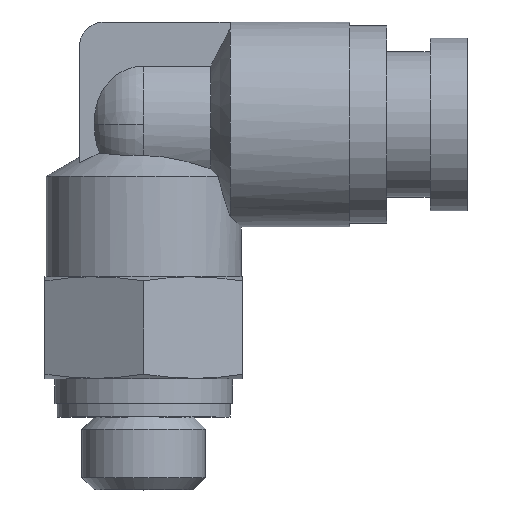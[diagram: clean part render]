
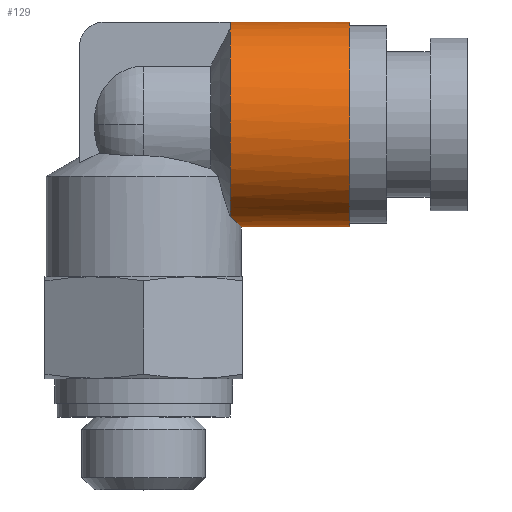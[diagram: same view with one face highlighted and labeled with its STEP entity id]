
A CAD part, top view. The second image highlights one B-rep face of the part: STEP entity #129.
In plain terms, the highlighted cylindrical face has radius 4.15 mm (diameter 8.3 mm), a partial arc.
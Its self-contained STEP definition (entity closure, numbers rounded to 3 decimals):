
#129 = ADVANCED_FACE( '', ( #249 ), #250, .T. );
#249 = FACE_OUTER_BOUND( '', #372, .T. );
#250 = CYLINDRICAL_SURFACE( '', #373, 4.15 );
#372 = EDGE_LOOP( '', ( #792, #793, #794, #795, #796, #797 ) );
#373 = AXIS2_PLACEMENT_3D( '', #798, #799, #800 );
#792 = ORIENTED_EDGE( '', *, *, #827, .T. );
#793 = ORIENTED_EDGE( '', *, *, #921, .F. );
#794 = ORIENTED_EDGE( '', *, *, #934, .F. );
#795 = ORIENTED_EDGE( '', *, *, #938, .T. );
#796 = ORIENTED_EDGE( '', *, *, #829, .T. );
#797 = ORIENTED_EDGE( '', *, *, #956, .T. );
#798 = CARTESIAN_POINT( '', ( 5.92, 11.85, 0. ) );
#799 = DIRECTION( '', ( 1., 0., 0. ) );
#800 = DIRECTION( '', ( 0., 1., 0. ) );
#827 = EDGE_CURVE( '', #965, #966, #967, .T. );
#829 = EDGE_CURVE( '', #970, #968, #971, .T. );
#921 = EDGE_CURVE( '', #1133, #966, #1134, .T. );
#934 = EDGE_CURVE( '', #1152, #1133, #1154, .T. );
#938 = EDGE_CURVE( '', #1152, #970, #1159, .T. );
#956 = EDGE_CURVE( '', #968, #965, #1177, .T. );
#965 = VERTEX_POINT( '', #1213 );
#966 = VERTEX_POINT( '', #1214 );
#967 = LINE( '', #1215, #1216 );
#968 = VERTEX_POINT( '', #1217 );
#970 = VERTEX_POINT( '', #1219 );
#971 = LINE( '', #1220, #1221 );
#1133 = VERTEX_POINT( '', #1694 );
#1134 = CIRCLE( '', #1695, 4.15 );
#1152 = VERTEX_POINT( '', #1766 );
#1154 = CIRCLE( '', #1775, 4.15 );
#1159 = B_SPLINE_CURVE_WITH_KNOTS( '', 3, ( #1796, #1797, #1798, #1799, #1800, #1801, #1802, #1803, #1804, #1805, #1806, #1807, #1808, #1809 ), .UNSPECIFIED., .F., .F., ( 4, 2, 2, 2, 2, 2, 4 ), ( 18.822, 19.119, 19.926, 20.734, 21.542, 22.35, 22.647 ), .UNSPECIFIED. );
#1177 = CIRCLE( '', #1827, 4.15 );
#1213 = CARTESIAN_POINT( '', ( 8.34, 16., 0. ) );
#1214 = CARTESIAN_POINT( '', ( 3.5, 16., 0. ) );
#1215 = CARTESIAN_POINT( '', ( 5.92, 16., 0. ) );
#1216 = VECTOR( '', #1836, 1. );
#1217 = CARTESIAN_POINT( '', ( 8.34, 7.7, 0. ) );
#1219 = CARTESIAN_POINT( '', ( 3.95, 7.7, 0. ) );
#1220 = CARTESIAN_POINT( '', ( 5.92, 7.7, 0. ) );
#1221 = VECTOR( '', #1840, 1. );
#1694 = CARTESIAN_POINT( '', ( 3.5, 15.719, 1.5 ) );
#1695 = AXIS2_PLACEMENT_3D( '', #1957, #1958, #1959 );
#1766 = CARTESIAN_POINT( '', ( 3.5, 8.126, 1.831 ) );
#1775 = AXIS2_PLACEMENT_3D( '', #1971, #1972, #1973 );
#1796 = CARTESIAN_POINT( '', ( 3.5, 8.126, 1.831 ) );
#1797 = CARTESIAN_POINT( '', ( 3.544, 8.084, 1.747 ) );
#1798 = CARTESIAN_POINT( '', ( 3.586, 8.045, 1.66 ) );
#1799 = CARTESIAN_POINT( '', ( 3.729, 7.91, 1.329 ) );
#1800 = CARTESIAN_POINT( '', ( 3.811, 7.832, 1.072 ) );
#1801 = CARTESIAN_POINT( '', ( 3.922, 7.727, 0.542 ) );
#1802 = CARTESIAN_POINT( '', ( 3.95, 7.7, 0.269 ) );
#1803 = CARTESIAN_POINT( '', ( 3.95, 7.7, -0.269 ) );
#1804 = CARTESIAN_POINT( '', ( 3.922, 7.727, -0.542 ) );
#1805 = CARTESIAN_POINT( '', ( 3.811, 7.832, -1.072 ) );
#1806 = CARTESIAN_POINT( '', ( 3.729, 7.91, -1.329 ) );
#1807 = CARTESIAN_POINT( '', ( 3.586, 8.045, -1.66 ) );
#1808 = CARTESIAN_POINT( '', ( 3.544, 8.084, -1.747 ) );
#1809 = CARTESIAN_POINT( '', ( 3.5, 8.126, -1.831 ) );
#1827 = AXIS2_PLACEMENT_3D( '', #2028, #2029, #2030 );
#1836 = DIRECTION( '', ( -1., 0., 0. ) );
#1840 = DIRECTION( '', ( 1., 0., 0. ) );
#1957 = CARTESIAN_POINT( '', ( 3.5, 11.85, 0. ) );
#1958 = DIRECTION( '', ( -1., 0., 0. ) );
#1959 = DIRECTION( '', ( 0., 1., 0. ) );
#1971 = CARTESIAN_POINT( '', ( 3.5, 11.85, 0. ) );
#1972 = DIRECTION( '', ( -1., 0., 0. ) );
#1973 = DIRECTION( '', ( 0., 1., 0. ) );
#2028 = CARTESIAN_POINT( '', ( 8.34, 11.85, 0. ) );
#2029 = DIRECTION( '', ( -1., 0., 0. ) );
#2030 = DIRECTION( '', ( 0., 1., 0. ) );
